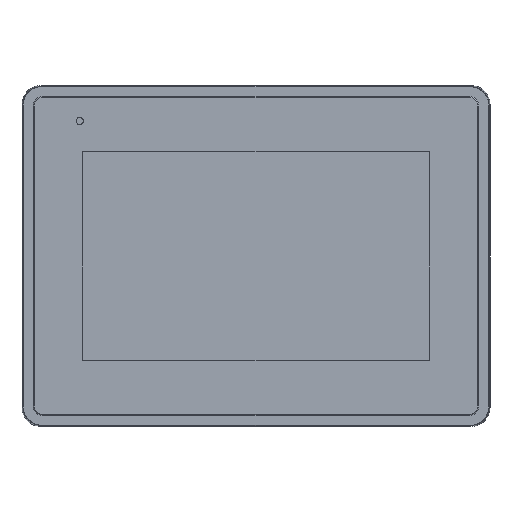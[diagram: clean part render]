
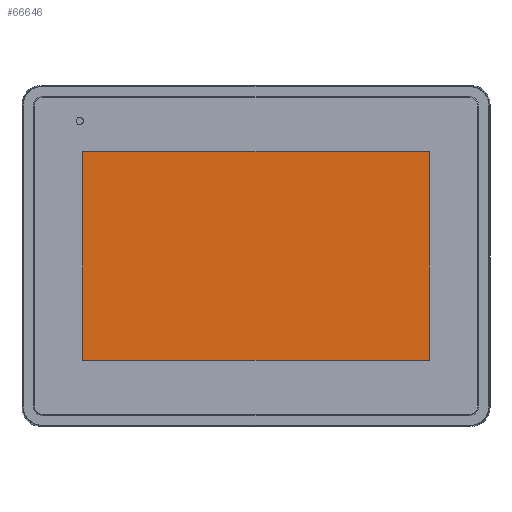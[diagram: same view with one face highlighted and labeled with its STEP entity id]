
A CAD part, top view. The second image highlights one B-rep face of the part: STEP entity #66646.
In plain terms, the highlighted planar face has unit normal (0, 0, 1).
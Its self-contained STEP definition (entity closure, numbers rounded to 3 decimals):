
#256 = CARTESIAN_POINT ( 'NONE',  ( 54.5, -32.9, 0.6 ) ) ;
#2645 = PLANE ( 'NONE',  #65088 ) ;
#4612 = EDGE_CURVE ( 'NONE', #32989, #73743, #60566, .T. ) ;
#4982 = DIRECTION ( 'NONE',  ( 1., 0., 0. ) ) ;
#12392 = EDGE_CURVE ( 'NONE', #73743, #13905, #80236, .T. ) ;
#13905 = VERTEX_POINT ( 'NONE', #71404 ) ;
#17412 = CARTESIAN_POINT ( 'NONE',  ( -54.5, -32.9, 0.6 ) ) ;
#18073 = DIRECTION ( 'NONE',  ( 1., 0., 0. ) ) ;
#19240 = VECTOR ( 'NONE', #64886, 1000. ) ;
#23483 = CARTESIAN_POINT ( 'NONE',  ( -54.5, -32.9, 0.6 ) ) ;
#24177 = VECTOR ( 'NONE', #18073, 1000. ) ;
#31728 = ORIENTED_EDGE ( 'NONE', *, *, #41198, .T. ) ;
#32142 = DIRECTION ( 'NONE',  ( 0., 1., 0. ) ) ;
#32989 = VERTEX_POINT ( 'NONE', #62191 ) ;
#33914 = VECTOR ( 'NONE', #74204, 1000. ) ;
#34987 = ORIENTED_EDGE ( 'NONE', *, *, #4612, .T. ) ;
#38718 = VERTEX_POINT ( 'NONE', #55459 ) ;
#41198 = EDGE_CURVE ( 'NONE', #13905, #38718, #69036, .T. ) ;
#45822 = CARTESIAN_POINT ( 'NONE',  ( 54.5, 32.9, 0.6 ) ) ;
#46964 = DIRECTION ( 'NONE',  ( 0., 0., 1. ) ) ;
#55459 = CARTESIAN_POINT ( 'NONE',  ( 54.5, 32.9, 0.6 ) ) ;
#59826 = CARTESIAN_POINT ( 'NONE',  ( -611.997, -894.376, 0.6 ) ) ;
#59998 = ORIENTED_EDGE ( 'NONE', *, *, #72805, .T. ) ;
#60566 = LINE ( 'NONE', #67589, #33914 ) ;
#62156 = FACE_OUTER_BOUND ( 'NONE', #81129, .T. ) ;
#62191 = CARTESIAN_POINT ( 'NONE',  ( -54.5, 32.9, 0.6 ) ) ;
#64886 = DIRECTION ( 'NONE',  ( -1., 0., 0. ) ) ;
#65088 = AXIS2_PLACEMENT_3D ( 'NONE', #59826, #46964, #4982 ) ;
#66646 = ADVANCED_FACE ( 'NONE', ( #62156 ), #2645, .T. ) ;
#67589 = CARTESIAN_POINT ( 'NONE',  ( -54.5, 32.9, 0.6 ) ) ;
#69036 = LINE ( 'NONE', #256, #70780 ) ;
#70780 = VECTOR ( 'NONE', #32142, 1000. ) ;
#71103 = LINE ( 'NONE', #45822, #19240 ) ;
#71404 = CARTESIAN_POINT ( 'NONE',  ( 54.5, -32.9, 0.6 ) ) ;
#72584 = ORIENTED_EDGE ( 'NONE', *, *, #12392, .T. ) ;
#72805 = EDGE_CURVE ( 'NONE', #38718, #32989, #71103, .T. ) ;
#73743 = VERTEX_POINT ( 'NONE', #17412 ) ;
#74204 = DIRECTION ( 'NONE',  ( 0., -1., 0. ) ) ;
#80236 = LINE ( 'NONE', #23483, #24177 ) ;
#81129 = EDGE_LOOP ( 'NONE', ( #34987, #72584, #31728, #59998 ) ) ;
